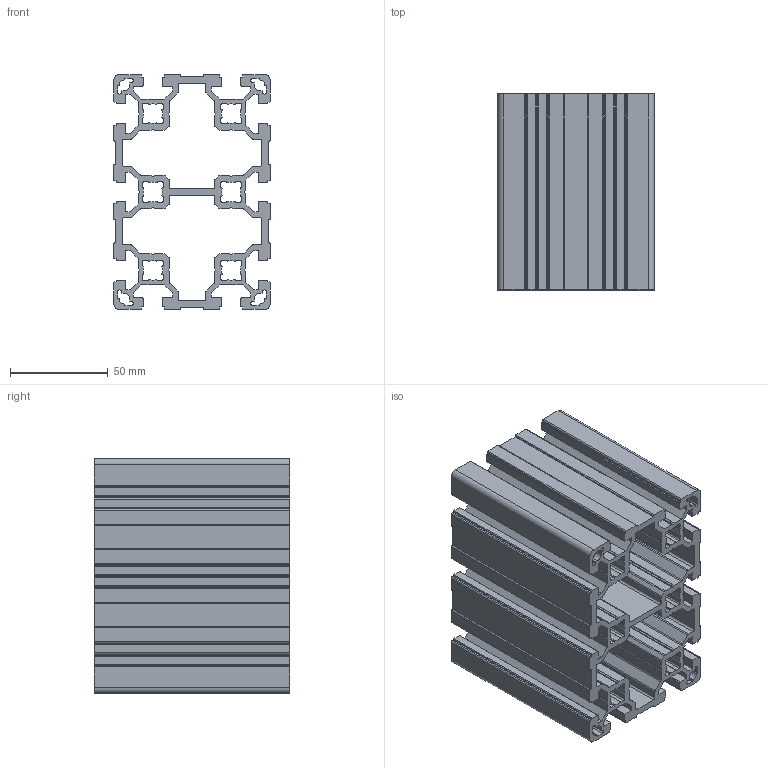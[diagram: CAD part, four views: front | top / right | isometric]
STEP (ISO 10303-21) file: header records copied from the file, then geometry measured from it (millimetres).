
FILE_DESCRIPTION( ( 'Unknown' ), '1' );
FILE_NAME( 'Z:/DBFINAL/Serie1/B-NEU-2018-11-19/B-NEU2019-Entwurf-FINAL/B10-80120L.stp', 'Unknown', ( 'Unknown' ), ( 'Unknown' ), 'XStep 1.0', 'Unknown', ' ' );
FILE_SCHEMA( ( 'automotive_design' ) );
Length unit declared in the file: millimetre
Products named in the file (1): 1
Bounding box: 80 x 100 x 120 mm (x, y, z)
Volume: 263942.5 mm3; surface area: 167555.2 mm2
Topology: 1 solids, 1 shells, 802 faces, 2400 edges, 1600 vertices
Faces by surface type: plane 420, cylinder 382
Entity records: 33668 total; most frequent: CARTESIAN_POINT 4803, ORIENTED_EDGE 4800, DIRECTION 4770, EDGE_CURVE 2400, LINE 1636, VECTOR 1636, VERTEX_POINT 1600, AXIS2_PLACEMENT_3D 1567
